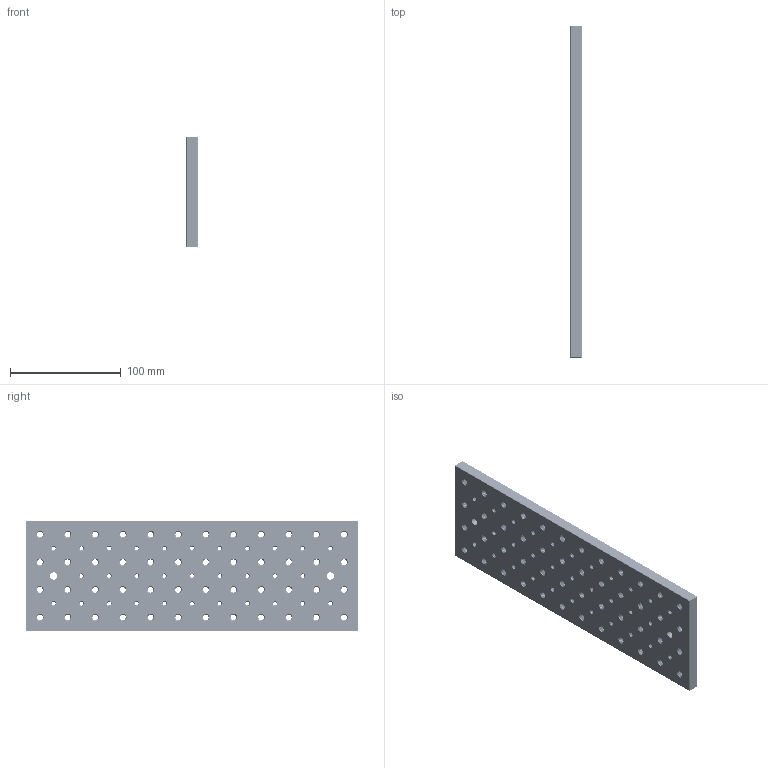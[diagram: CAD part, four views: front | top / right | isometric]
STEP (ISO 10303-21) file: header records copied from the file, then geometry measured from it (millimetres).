
FILE_DESCRIPTION((''),'2;1');
FILE_NAME('OHD3010-M','2020-10-27T',('Administrator'),(''),'CREO PARAMETRIC BY PTC INC, 2015290','CREO PARAMETRIC BY PTC INC, 2015290','');
FILE_SCHEMA(('CONFIG_CONTROL_DESIGN'));
Products named in the file (1): OHD3010-M
Bounding box: 10 x 300 x 100 mm (x, y, z)
Volume: 282707.9 mm3; surface area: 80447 mm2
Topology: 1 solids, 1 shells, 2681 faces, 7443 edges, 4766 vertices
Faces by surface type: cylinder 1647, bspline 694, cone 320, plane 20
Entity records: 183585 total; most frequent: CARTESIAN_POINT 124772, ORIENTED_EDGE 14886, DIRECTION 7908, EDGE_CURVE 7443, VERTEX_POINT 4766, B_SPLINE_CURVE_WITH_KNOTS 4161, EDGE_LOOP 2845, FACE_OUTER_BOUND 2681
